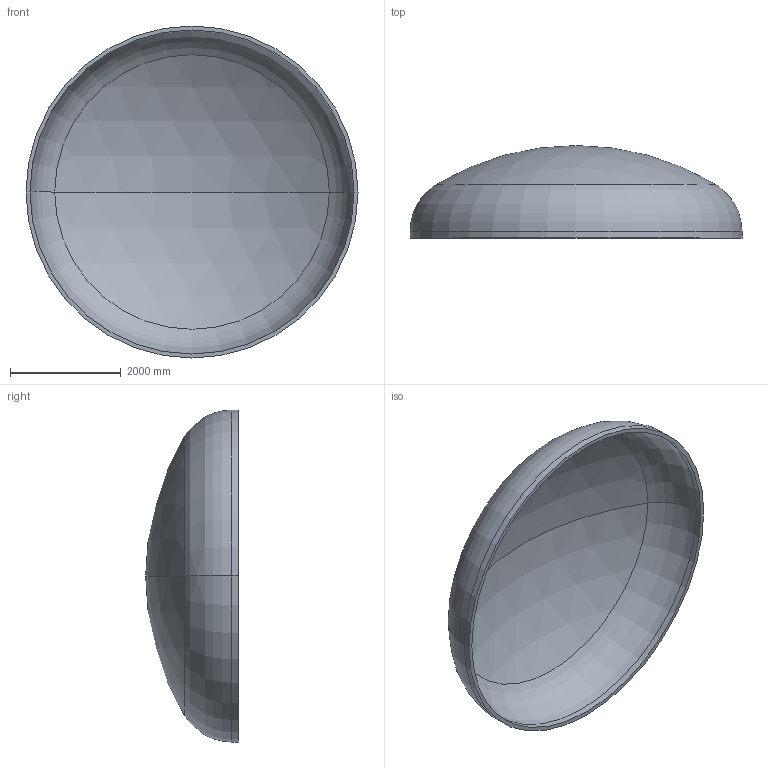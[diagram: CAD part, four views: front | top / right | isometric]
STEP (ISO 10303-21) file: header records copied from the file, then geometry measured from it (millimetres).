
FILE_DESCRIPTION (( 'STEP AP203' ), '1' );
FILE_NAME ('DIN 28013 Korbbogenform_-_Boden DIN 28013 - 6000 x 120 - I - s=72.step', '2016-07-04T10:38:00', ( '' ), ( '' ), 'SwSTEP 2.0', 'SolidWorks 2013', '' );
FILE_SCHEMA (( 'CONFIG_CONTROL_DESIGN' ));
Length unit declared in the file: millimetre
Products named in the file (1): DIN 28013 Korbbogenform_-_Boden DIN 28013 - 6000 x 120 - I - s=72
Bounding box: 6000 x 1674.83 x 6000 mm (x, y, z)
Volume: 2936602668.4 mm3; surface area: 82924005 mm2
Topology: 1 solids, 1 shells, 13 faces, 24 edges, 14 vertices
Faces by surface type: torus 4, cylinder 4, sphere 4, plane 1
Entity records: 407 total; most frequent: DIRECTION 72, CARTESIAN_POINT 52, ORIENTED_EDGE 48, AXIS2_PLACEMENT_3D 34, EDGE_CURVE 24, CIRCLE 20, VERTEX_POINT 14, EDGE_LOOP 14
